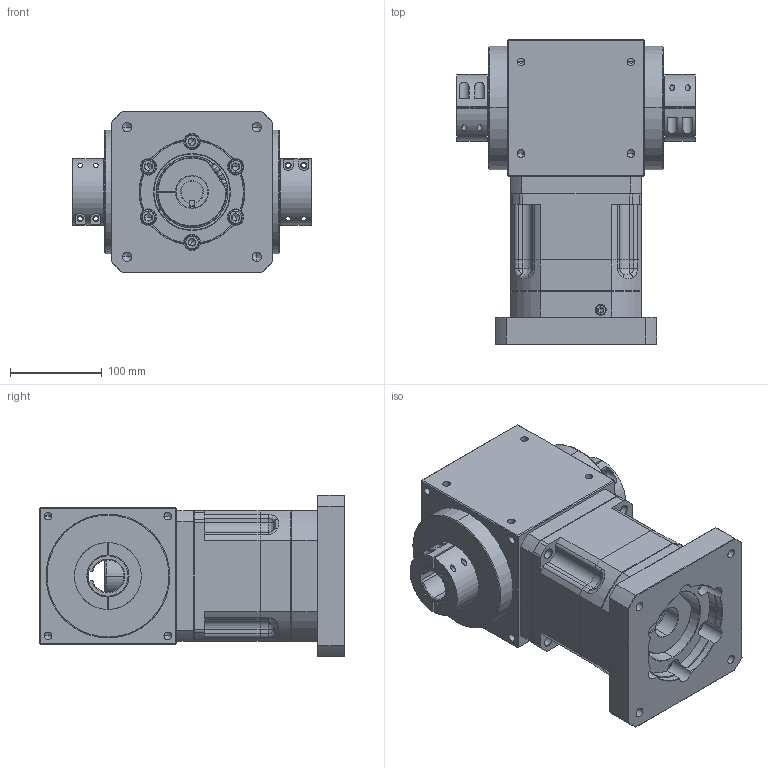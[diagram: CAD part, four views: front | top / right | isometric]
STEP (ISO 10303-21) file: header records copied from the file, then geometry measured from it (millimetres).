
FILE_DESCRIPTION (( 'STEP AP214' ), '1' );
FILE_NAME ('RXW150B-L1-2C-K--24-95-115-M8.STEP', '2020-12-07T08:07:05', ( '微软用户' ), ( '微软中国' ), 'SwSTEP 2.0', 'SolidWorks 2014', '' );
FILE_SCHEMA (( 'AUTOMOTIVE_DESIGN' ));
Length unit declared in the file: millimetre
Products named in the file (85): 俴陎謫菜え13.6X27; 幗渀粣創13.513X18.513; Hexagon socket head cap screws GB_GB_FASTENER_SCREWS_HSHCS M10X35-N; 怀堤粣5; 俴陎粣13.513; Spring lock washers--Normal type GB_GB_FASTENER_WASHER_SW 10; 一级齿圈Z108; 怮栠謫5; Circlips for hole--Type B GB_GB_CONNECTING_PIECE_RINGS_CHB 80; 150標杶_1; Circlips for hole--Type B GB_GB_CONNECTING_PIECE_RINGS_CHB 110; Plain parallel keys_GB_CONNECTING_PIECE_KEYS_CSK C6X18; 俴陎謫5; 蚐猾60X110X12; Hexagon socket head cap screws GB_GB_FASTENER_SCREWS_HSHCS M8X35-N; RXW150B-L1-2C-K--24-95-115-M8_1; 薊粣ん35; RXW150B-L1-2C-K--24-95-115-M8; 笢潔楊擘; PAB-142-L1-S2-P2 35-114.3-200-M12; 萇儂楊擘D114.3M12; Spring lock washers--Normal type GB_GB_FASTENER_WASHER_SW 8; Circlips for shaft--Type A large GB_GB_CONNECTING_PIECE_RING_RRA 55; Deep groove ball bearings GB_Rolling bearings 6011 GB 276-94; 薊粣ん菜え35; Deep groove ball bearings GB_Rolling bearings 61821 GB 276-94; Deep groove ball bearings GB_Rolling bearings 6212 GB 276-94; Hexagon socket head cap screws GB_GB_FASTENER_SCREWS_HSHCS M10X30-N; Hex socket set screws with flat point GB_GB_FASTENER_SCREWS_HSFP M12X16-N
Assembly tree (57 placements, depth 3):
  俴陎謫菜え13.6X27
  Hexagon socket head cap screws GB_GB_FASTENER_SCREWS_HSHCS M10X35-N
  怀堤粣5
  俴陎謫菜え13.6X27
  Spring lock washers--Normal type GB_GB_FASTENER_WASHER_SW 10
Bounding box: 260 x 333.5 x 176 mm (x, y, z)
Volume: 7191330.8 mm3; surface area: 854854.1 mm2
Topology: 53 solids, 53 shells, 2095 faces, 6607 edges, 4149 vertices
Faces by surface type: cylinder 672, plane 543, bspline 493, cone 279, sphere 108
Entity records: 95311 total; most frequent: CARTESIAN_POINT 33163, ORIENTED_EDGE 10422, DIRECTION 8046, EDGE_CURVE 5211, VERTEX_POINT 3442, AXIS2_PLACEMENT_3D 3405, CIRCLE 2093, EDGE_LOOP 1931
